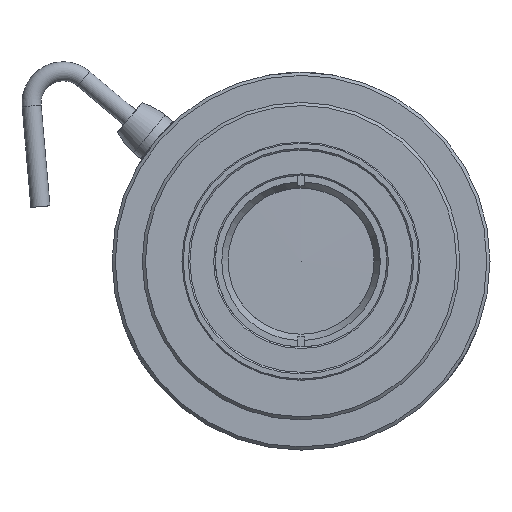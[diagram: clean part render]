
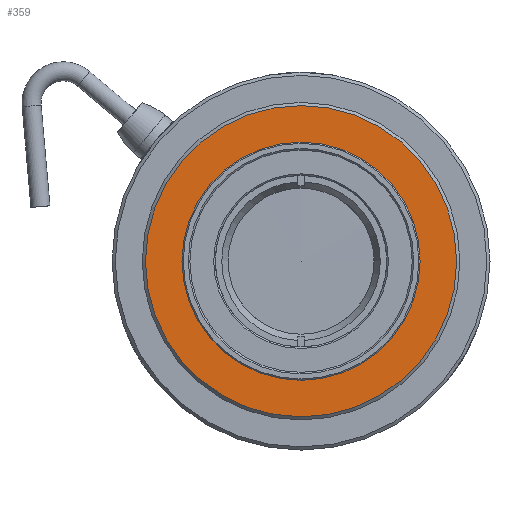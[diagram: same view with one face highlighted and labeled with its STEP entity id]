
A CAD part, front view. The second image highlights one B-rep face of the part: STEP entity #359.
In plain terms, the highlighted planar face has unit normal (0, -1, 0).
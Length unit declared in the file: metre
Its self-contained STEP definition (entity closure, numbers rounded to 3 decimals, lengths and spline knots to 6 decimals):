
#359=ADVANCED_FACE('0:2962',(#980,#981),#982,.F.);
#980=FACE_OUTER_BOUND('',#1954,.T.);
#981=FACE_BOUND('',#1955,.T.);
#982=PLANE('',#1956);
#1954=EDGE_LOOP('',(#3018));
#1955=EDGE_LOOP('',(#3019));
#1956=AXIS2_PLACEMENT_3D('',#3020,#3021,#3022);
#3018=ORIENTED_EDGE('',*,*,#5245,.F.);
#3019=ORIENTED_EDGE('',*,*,#5246,.T.);
#3020=CARTESIAN_POINT('',(0.0,-0.073726,0.0205));
#3021=DIRECTION('',(-0.0,1.0,0.0));
#3022=DIRECTION('',(1.0,0.0,0.0));
#5245=EDGE_CURVE('0:4159',#6169,#6169,#6170,.T.);
#5246=EDGE_CURVE('0:4156',#6171,#6171,#6172,.T.);
#6169=VERTEX_POINT('',#7608);
#6170=CIRCLE('',#7609,0.0245);
#6171=VERTEX_POINT('',#7610);
#6172=CIRCLE('',#7611,0.01875);
#7608=CARTESIAN_POINT('',(0.0,-0.073726,0.0245));
#7609=AXIS2_PLACEMENT_3D('',#9358,#9359,#9360);
#7610=CARTESIAN_POINT('',(0.0,-0.073726,0.01875));
#7611=AXIS2_PLACEMENT_3D('',#9361,#9362,#9363);
#9358=CARTESIAN_POINT('',(0.0,-0.073726,0.));
#9359=DIRECTION('',(0.0,1.0,0.0));
#9360=DIRECTION('',(0.0,0.0,1.0));
#9361=CARTESIAN_POINT('',(0.0,-0.073726,0.0));
#9362=DIRECTION('',(0.0,1.0,0.0));
#9363=DIRECTION('',(0.0,0.0,1.0));
